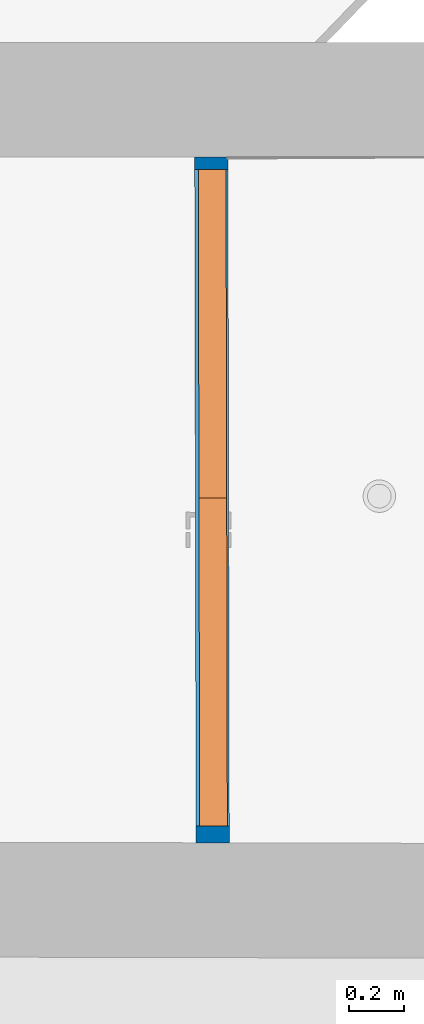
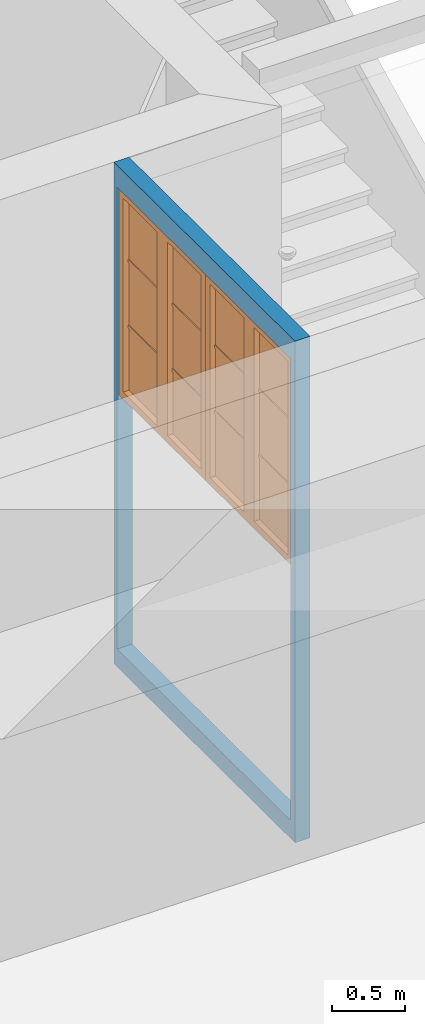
# One storey, part 13 of 90: 2 proxies, 1 wall, 3 openings.
"""IFC2X3 building model written with IfcOpenShell, lengths in metres."""

from ifc_helpers import new_model, entity, si_unit, converted_unit, derived_unit, money_unit, direction, frame, origin_with_axes, origin_2d_with_axis, place, context, subcontext, project, spatial, polyline, rectangle, outline, extrude, faceted_brep, source, transform, mapped, material, layer, layer_set, layer_usage, type_object, element, fill, save


model = new_model("IFC2X3")

# Units and contexts
model_context = context("Model", 3, precision=1e-05, world=origin_with_axes(), true_north=direction((0.0, 1.0)))
body_context = subcontext(model_context, "Body", "Model", "MODEL_VIEW")
ifc_project = project(units=[si_unit("LENGTHUNIT", "METRE"), si_unit("AREAUNIT", "SQUARE_METRE"), si_unit("VOLUMEUNIT", "CUBIC_METRE"), converted_unit("PLANEANGLEUNIT", "DEGREE", entity("IfcPlaneAngleMeasure", 0.0174532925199), si_unit("PLANEANGLEUNIT", "RADIAN"), dimensions=[0, 0, 0, 0, 0, 0, 0]), money_unit("EUR"), converted_unit("TIMEUNIT", "Year", entity("IfcTimeMeasure", 31556926.0), si_unit("TIMEUNIT", "SECOND"), dimensions=[0, 0, 1, 0, 0, 0, 0]), si_unit("MASSUNIT", "GRAM", prefix="KILO"), si_unit("THERMODYNAMICTEMPERATUREUNIT", "DEGREE_CELSIUS"), si_unit("LUMINOUSINTENSITYUNIT", "LUMEN"), si_unit("ENERGYUNIT", "JOULE", prefix="MEGA"), derived_unit("THERMALCONDUCTANCEUNIT", [(si_unit("POWERUNIT", "WATT"), 1), (si_unit("LENGTHUNIT", "METRE"), -1), (si_unit("THERMODYNAMICTEMPERATUREUNIT", "KELVIN"), -1)]), derived_unit("SPECIFICHEATCAPACITYUNIT", [(si_unit("ENERGYUNIT", "JOULE"), 1), (si_unit("MASSUNIT", "GRAM", prefix="KILO"), -1), (si_unit("THERMODYNAMICTEMPERATUREUNIT", "KELVIN"), -1)]), derived_unit("MASSDENSITYUNIT", [(si_unit("MASSUNIT", "GRAM", prefix="KILO"), 1), (si_unit("VOLUMEUNIT", "CUBIC_METRE"), -1)])], contexts=[model_context])

# Site, building, storey
site_placement = place(None, origin_with_axes())
site = spatial("IfcSite", under=ifc_project, at=site_placement, Name="Gelände", CompositionType="ELEMENT")
building_placement = place(site_placement, origin_with_axes())
building = spatial("IfcBuilding", under=site, at=building_placement, Name="Gebäude", CompositionType="ELEMENT")
storey_placement = place(building_placement, frame((0.0, 0.0, 3.7), z_axis=(0.0, 0.0, 1.0), x_axis=(1.0, 0.0, 0.0)))
storey = spatial("IfcBuildingStorey", under=building, at=storey_placement, Name="1.OBERGESCHOSS", CompositionType="ELEMENT", Elevation=3.7)

# Wall, openings, proxies
ifc_material = material(Name="05_ALLGEMEIN - TRAGENDE BAUTEILE")
ifc_layer = layer(ifc_material, 0.12, ventilated="UNKNOWN")
ifc_layer_set = layer_set([ifc_layer], Name="05_ALLGEMEIN - TRAGENDE BAUTEILE 0.12")
ifc_layer_usage = layer_usage(ifc_layer_set, "AXIS2", "NEGATIVE", 0.12)
wall_type = type_object("IfcWallType", Name="05_ALLGEMEIN - TRAGENDE BAUTEILE 120", PredefinedType="ELEMENTEDWALL")
wall_placement = place(storey_placement, frame((-11.0445629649, 16.7743310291, -0.1), z_axis=(0.0, 0.0, 1.0), x_axis=(-0.00202126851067, 0.999997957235, 0.0)))
wall = element("IfcWallStandardCase", 1, at=wall_placement, inside=storey, type_object=wall_type, material=ifc_layer_usage, Name="Wand-036", ObjectType="ELEMENTEDWALL", context=body_context, shape_type="SweptSolid", body=[
    extrude(outline(polyline([(0.0, 0.0), (2.4759444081, 0.0), (2.47614909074, 0.12), (0.000517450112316, 0.12), (0.0, 0.0)])), origin_with_axes(), (0.0, 0.0, 1.0), 4.2),
])
opening_1_placement = place(wall_placement, frame((1.83843119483, 0.0, 2.27362266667), z_axis=(0.0, 0.0, 1.0), x_axis=(1.0, 0.0, 0.0)))
opening_1 = element("IfcOpeningElement", 2, at=opening_1_placement, cuts=wall, Name="Fenster-016", context=body_context, shape_type="SweptSolid", body=[
    extrude(rectangle(XDim=1.18544494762, YDim=1.743605, at=origin_2d_with_axis()), frame((0.0, 0.007, 0.8718025), z_axis=(0.0, 1.0, 0.0), x_axis=(-1.0, 0.0, 0.0)), (0.0, 0.0, 1.0), 0.233),
    extrude(rectangle(XDim=1.18544494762, YDim=1.743605, at=origin_2d_with_axis()), frame((0.0, 0.007, 0.8718025), z_axis=(0.0, -1.0, 0.0), x_axis=(-1.0, 0.0, 0.0)), (0.0, 0.0, 1.0), 0.127),
])
opening_2_placement = place(wall_placement, frame((0.652986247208, 0.0, 2.27362266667), z_axis=(0.0, 0.0, 1.0), x_axis=(1.0, 0.0, 0.0)))
opening_2 = element("IfcOpeningElement", 3, at=opening_2_placement, cuts=wall, Name="Fenster-016", context=body_context, shape_type="SweptSolid", body=[
    extrude(rectangle(XDim=1.18544494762, YDim=1.743605, at=origin_2d_with_axis()), frame((0.0, 0.007, 0.8718025), z_axis=(0.0, 1.0, 0.0), x_axis=(-1.0, 0.0, 0.0)), (0.0, 0.0, 1.0), 0.233),
    extrude(rectangle(XDim=1.18544494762, YDim=1.743605, at=origin_2d_with_axis()), frame((0.0, 0.007, 0.8718025), z_axis=(0.0, -1.0, 0.0), x_axis=(-1.0, 0.0, 0.0)), (0.0, 0.0, 1.0), 0.127),
])
opening_3_placement = place(wall_placement, frame((1.24570872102, 0.0, 0.150650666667), z_axis=(0.0, 0.0, 1.0), x_axis=(1.0, 0.0, 0.0)))
element("IfcOpeningElement", 4, at=opening_3_placement, cuts=wall, Name="Tür-023", context=body_context, shape_type="SweptSolid", body=[
    extrude(rectangle(XDim=2.37088989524, YDim=2.122972, at=origin_2d_with_axis()), frame((0.0, 0.106776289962, 1.061486), z_axis=(0.0, -1.0, 0.0), x_axis=(-1.0, 0.0, 0.0)), (0.0, 0.0, 1.0), 0.226776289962),
    extrude(rectangle(XDim=2.37088989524, YDim=2.122972, at=origin_2d_with_axis()), frame((0.0, 0.106776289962, 1.061486), z_axis=(0.0, 1.0, 0.0), x_axis=(-1.0, 0.0, 0.0)), (0.0, 0.0, 1.0), 0.133223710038),
])
building_element_proxy_type = type_object("IfcBuildingElementProxyType", Name="2-Flügelfenster 1+1 25", PredefinedType="NOTDEFINED")
shared_shape = source(origin_with_axes(), body_context, "Body", "Brep", [
    faceted_brep([(0.59272247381, -0.1, 0.0), (0.53272247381, -0.1, 0.06), (0.53272247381, 0.0, 0.06), (0.59272247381, 0.0, 0.0), (0.59272247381, -0.1, 1.743605), (0.53272247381, -0.1, 1.683605), (0.53272247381, 0.0, 1.683605), (0.59272247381, 0.0, 1.743605)], [[[0, 1, 2, 3]], [[0, 4, 5, 1]], [[1, 5, 6, 2]], [[3, 2, 6, 7]], [[4, 0, 3, 7]], [[5, 4, 7, 6]]]),
    faceted_brep([(-0.59272247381, -0.1, 0.0), (-0.59272247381, -0.1, 1.743605), (-0.59272247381, 0.0, 1.743605), (-0.59272247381, 0.0, 0.0), (-0.53272247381, -0.1, 0.06), (-0.53272247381, -0.1, 1.683605), (-0.53272247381, 0.0, 1.683605), (-0.53272247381, 0.0, 0.06)], [[[0, 1, 2, 3]], [[0, 4, 5, 1]], [[1, 5, 6, 2]], [[3, 2, 6, 7]], [[4, 0, 3, 7]], [[5, 4, 7, 6]]]),
    faceted_brep([(0.59272247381, -0.1, 0.0), (-0.59272247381, -0.1, 0.0), (-0.59272247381, 0.0, 0.0), (0.59272247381, 0.0, 0.0), (0.53272247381, -0.1, 0.06), (0.07, -0.1, 0.06), (-0.07, -0.1, 0.06), (-0.53272247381, -0.1, 0.06), (-0.53272247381, 0.0, 0.06), (-0.07, 0.0, 0.06), (0.07, 0.0, 0.06), (0.53272247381, 0.0, 0.06)], [[[0, 1, 2, 3]], [[0, 4, 5, 6, 7, 1]], [[1, 7, 8, 2]], [[3, 2, 8, 9, 10, 11]], [[4, 0, 3, 11]], [[5, 4, 11, 10]], [[6, 5, 10, 9]], [[7, 6, 9, 8]]]),
    faceted_brep([(0.59272247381, -0.1, 1.743605), (0.53272247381, -0.1, 1.683605), (0.53272247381, 0.0, 1.683605), (0.59272247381, 0.0, 1.743605), (-0.59272247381, -0.1, 1.743605), (-0.53272247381, -0.1, 1.683605), (-0.07, -0.1, 1.683605), (0.07, -0.1, 1.683605), (0.07, 0.0, 1.683605), (-0.07, 0.0, 1.683605), (-0.53272247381, 0.0, 1.683605), (-0.59272247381, 0.0, 1.743605)], [[[0, 1, 2, 3]], [[0, 4, 5, 6, 7, 1]], [[1, 7, 8, 2]], [[3, 2, 8, 9, 10, 11]], [[4, 0, 3, 11]], [[5, 4, 11, 10]], [[6, 5, 10, 9]], [[7, 6, 9, 8]]]),
    faceted_brep([(0.07, -0.1, 0.06), (-0.07, -0.1, 0.06), (-0.07, 0.0, 0.06), (0.07, 0.0, 0.06), (0.07, -0.1, 1.683605), (-0.07, -0.1, 1.683605), (-0.07, 0.0, 1.683605), (0.07, 0.0, 1.683605)], [[[0, 1, 2, 3]], [[0, 4, 5, 1]], [[1, 5, 6, 2]], [[3, 2, 6, 7]], [[4, 0, 3, 7]], [[5, 4, 7, 6]]]),
    faceted_brep([(0.53272247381, -0.0625, 0.584535), (0.07, -0.0625, 0.584535), (0.07, -0.05, 0.584535), (0.53272247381, -0.05, 0.584535), (0.53272247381, -0.0625, 0.609535), (0.07, -0.0625, 0.609535), (0.07, -0.05, 0.609535), (0.53272247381, -0.05, 0.609535)], [[[0, 1, 2, 3]], [[0, 4, 5, 1]], [[1, 5, 6, 2]], [[3, 2, 6, 7]], [[4, 0, 3, 7]], [[5, 4, 7, 6]]]),
    faceted_brep([(0.53272247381, -0.05, 0.584535), (0.07, -0.05, 0.584535), (0.07, -0.0375, 0.584535), (0.53272247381, -0.0375, 0.584535), (0.53272247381, -0.05, 0.609535), (0.07, -0.05, 0.609535), (0.07, -0.0375, 0.609535), (0.53272247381, -0.0375, 0.609535)], [[[0, 1, 2, 3]], [[0, 4, 5, 1]], [[1, 5, 6, 2]], [[3, 2, 6, 7]], [[4, 0, 3, 7]], [[5, 4, 7, 6]]]),
    faceted_brep([(0.53272247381, -0.0625, 1.13407), (0.07, -0.0625, 1.13407), (0.07, -0.05, 1.13407), (0.53272247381, -0.05, 1.13407), (0.53272247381, -0.0625, 1.15907), (0.07, -0.0625, 1.15907), (0.07, -0.05, 1.15907), (0.53272247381, -0.05, 1.15907)], [[[0, 1, 2, 3]], [[0, 4, 5, 1]], [[1, 5, 6, 2]], [[3, 2, 6, 7]], [[4, 0, 3, 7]], [[5, 4, 7, 6]]]),
    faceted_brep([(0.53272247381, -0.05, 1.13407), (0.07, -0.05, 1.13407), (0.07, -0.0375, 1.13407), (0.53272247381, -0.0375, 1.13407), (0.53272247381, -0.05, 1.15907), (0.07, -0.05, 1.15907), (0.07, -0.0375, 1.15907), (0.53272247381, -0.0375, 1.15907)], [[[0, 1, 2, 3]], [[0, 4, 5, 1]], [[1, 5, 6, 2]], [[3, 2, 6, 7]], [[4, 0, 3, 7]], [[5, 4, 7, 6]]]),
    faceted_brep([(0.07, -0.045, 1.13407), (0.07, -0.045, 0.609535), (0.07, -0.055, 0.609535), (0.07, -0.055, 1.13407), (0.53272247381, -0.045, 1.13407), (0.53272247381, -0.045, 0.609535), (0.53272247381, -0.055, 0.609535), (0.53272247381, -0.055, 1.13407)], [[[0, 1, 2, 3]], [[4, 5, 1, 0]], [[2, 1, 5, 6]], [[3, 2, 6, 7]], [[7, 4, 0, 3]], [[7, 6, 5, 4]]]),
    faceted_brep([(0.07, -0.055, 0.06), (0.07, -0.055, 0.584535), (0.07, -0.045, 0.584535), (0.07, -0.045, 0.06), (0.53272247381, -0.055, 0.06), (0.53272247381, -0.055, 0.584535), (0.53272247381, -0.045, 0.584535), (0.53272247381, -0.045, 0.06)], [[[0, 1, 2, 3]], [[4, 5, 1, 0]], [[2, 1, 5, 6]], [[3, 2, 6, 7]], [[0, 3, 7, 4]], [[7, 6, 5, 4]]]),
    faceted_brep([(0.53272247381, -0.055, 1.15907), (0.53272247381, -0.055, 1.683605), (0.07, -0.055, 1.683605), (0.07, -0.055, 1.15907), (0.53272247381, -0.045, 1.15907), (0.53272247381, -0.045, 1.683605), (0.07, -0.045, 1.683605), (0.07, -0.045, 1.15907)], [[[0, 1, 2, 3]], [[4, 5, 1, 0]], [[5, 6, 2, 1]], [[3, 2, 6, 7]], [[7, 4, 0, 3]], [[7, 6, 5, 4]]]),
    faceted_brep([(-0.07, -0.0625, 0.584535), (-0.53272247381, -0.0625, 0.584535), (-0.53272247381, -0.05, 0.584535), (-0.07, -0.05, 0.584535), (-0.07, -0.0625, 0.609535), (-0.53272247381, -0.0625, 0.609535), (-0.53272247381, -0.05, 0.609535), (-0.07, -0.05, 0.609535)], [[[0, 1, 2, 3]], [[0, 4, 5, 1]], [[1, 5, 6, 2]], [[3, 2, 6, 7]], [[4, 0, 3, 7]], [[5, 4, 7, 6]]]),
    faceted_brep([(-0.07, -0.05, 0.584535), (-0.53272247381, -0.05, 0.584535), (-0.53272247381, -0.0375, 0.584535), (-0.07, -0.0375, 0.584535), (-0.07, -0.05, 0.609535), (-0.53272247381, -0.05, 0.609535), (-0.53272247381, -0.0375, 0.609535), (-0.07, -0.0375, 0.609535)], [[[0, 1, 2, 3]], [[0, 4, 5, 1]], [[1, 5, 6, 2]], [[3, 2, 6, 7]], [[4, 0, 3, 7]], [[5, 4, 7, 6]]]),
    faceted_brep([(-0.07, -0.0625, 1.13407), (-0.53272247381, -0.0625, 1.13407), (-0.53272247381, -0.05, 1.13407), (-0.07, -0.05, 1.13407), (-0.07, -0.0625, 1.15907), (-0.53272247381, -0.0625, 1.15907), (-0.53272247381, -0.05, 1.15907), (-0.07, -0.05, 1.15907)], [[[0, 1, 2, 3]], [[0, 4, 5, 1]], [[1, 5, 6, 2]], [[3, 2, 6, 7]], [[4, 0, 3, 7]], [[5, 4, 7, 6]]]),
    faceted_brep([(-0.07, -0.05, 1.13407), (-0.53272247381, -0.05, 1.13407), (-0.53272247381, -0.0375, 1.13407), (-0.07, -0.0375, 1.13407), (-0.07, -0.05, 1.15907), (-0.53272247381, -0.05, 1.15907), (-0.53272247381, -0.0375, 1.15907), (-0.07, -0.0375, 1.15907)], [[[0, 1, 2, 3]], [[0, 4, 5, 1]], [[1, 5, 6, 2]], [[3, 2, 6, 7]], [[4, 0, 3, 7]], [[5, 4, 7, 6]]]),
    faceted_brep([(-0.53272247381, -0.045, 1.13407), (-0.53272247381, -0.045, 0.609535), (-0.53272247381, -0.055, 0.609535), (-0.53272247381, -0.055, 1.13407), (-0.07, -0.045, 1.13407), (-0.07, -0.045, 0.609535), (-0.07, -0.055, 0.609535), (-0.07, -0.055, 1.13407)], [[[0, 1, 2, 3]], [[4, 5, 1, 0]], [[2, 1, 5, 6]], [[3, 2, 6, 7]], [[7, 4, 0, 3]], [[7, 6, 5, 4]]]),
    faceted_brep([(-0.53272247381, -0.055, 0.06), (-0.53272247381, -0.055, 0.584535), (-0.53272247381, -0.045, 0.584535), (-0.53272247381, -0.045, 0.06), (-0.07, -0.055, 0.06), (-0.07, -0.055, 0.584535), (-0.07, -0.045, 0.584535), (-0.07, -0.045, 0.06)], [[[0, 1, 2, 3]], [[4, 5, 1, 0]], [[2, 1, 5, 6]], [[3, 2, 6, 7]], [[0, 3, 7, 4]], [[7, 6, 5, 4]]]),
    faceted_brep([(-0.07, -0.055, 1.15907), (-0.07, -0.055, 1.683605), (-0.53272247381, -0.055, 1.683605), (-0.53272247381, -0.055, 1.15907), (-0.07, -0.045, 1.15907), (-0.07, -0.045, 1.683605), (-0.53272247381, -0.045, 1.683605), (-0.53272247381, -0.045, 1.15907)], [[[0, 1, 2, 3]], [[4, 5, 1, 0]], [[5, 6, 2, 1]], [[3, 2, 6, 7]], [[7, 4, 0, 3]], [[7, 6, 5, 4]]]),
])
proxy_1_placement = place(opening_1_placement, frame((-0.59272247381, 0.0, 0.0), z_axis=(0.0, 0.0, 1.0), x_axis=(1.0, 0.0, 0.0)))
proxy_1 = element("IfcBuildingElementProxy", 5, at=proxy_1_placement, inside=storey, type_object=building_element_proxy_type, Name="Fenster-016", context=body_context, shape_type="MappedRepresentation", body=[
    mapped(shared_shape, transform((0.59272247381, 0.107, 0.0))),
])
fill(opening_1, proxy_1)
proxy_2_placement = place(opening_2_placement, frame((-0.59272247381, 0.0, 0.0), z_axis=(0.0, 0.0, 1.0), x_axis=(1.0, 0.0, 0.0)))
proxy_2 = element("IfcBuildingElementProxy", 6, at=proxy_2_placement, inside=storey, type_object=building_element_proxy_type, Name="Fenster-016", context=body_context, shape_type="MappedRepresentation", body=[
    mapped(shared_shape, transform((0.59272247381, 0.107, 0.0))),
])
fill(opening_2, proxy_2)

save(model, "model.ifc")
